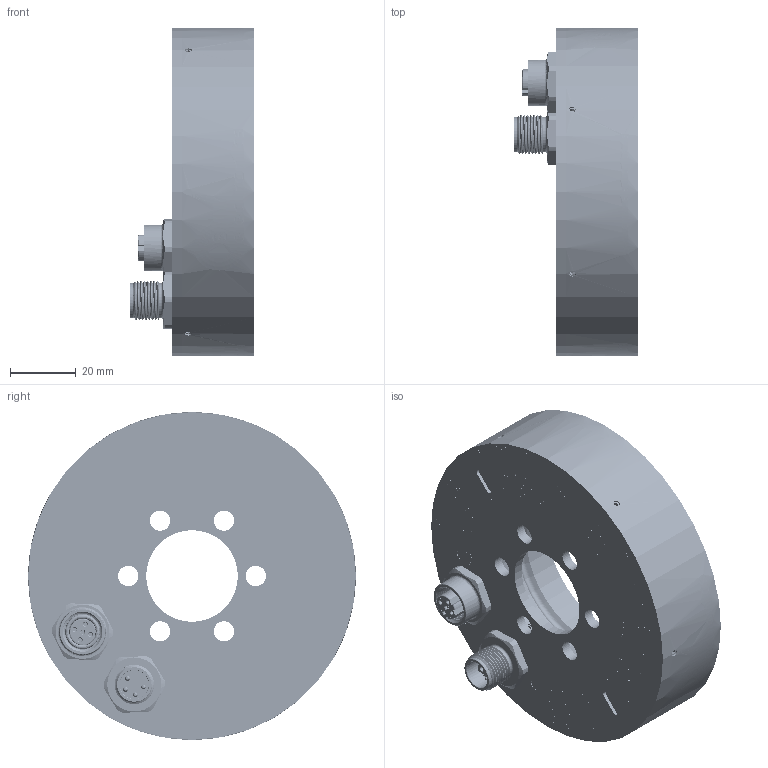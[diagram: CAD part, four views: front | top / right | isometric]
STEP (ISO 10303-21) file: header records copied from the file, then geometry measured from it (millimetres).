
FILE_DESCRIPTION (( 'STEP AP203' ), '1' );
FILE_NAME ('K0E012322_IC-BASE F100_50_zum_Versenden.STEP', '2023-12-22T09:04:16', ( '' ), ( '' ), 'SwSTEP 2.0', 'SolidWorks 2023', '' );
FILE_SCHEMA (( 'CONFIG_CONTROL_DESIGN' ));
Length unit declared in the file: millimetre
Products named in the file (1): K0E012322_IC-BASE F100_50_zum_Versenden
Bounding box: 37.8 x 100 x 100 mm (x, y, z)
Surface area: 67541.4 mm2 (no closed solid volume)
Topology: 0 solids, 30 shells, 6641 faces, 18439 edges, 12512 vertices
Faces by surface type: plane 3697, bspline 2032, cylinder 629, cone 182, torus 101
Entity records: 321557 total; most frequent: CARTESIAN_POINT 165005, ORIENTED_EDGE 36732, DIRECTION 24270, EDGE_CURVE 18427, VERTEX_POINT 12512, VECTOR 11844, LINE 11844, EDGE_LOOP 7405
